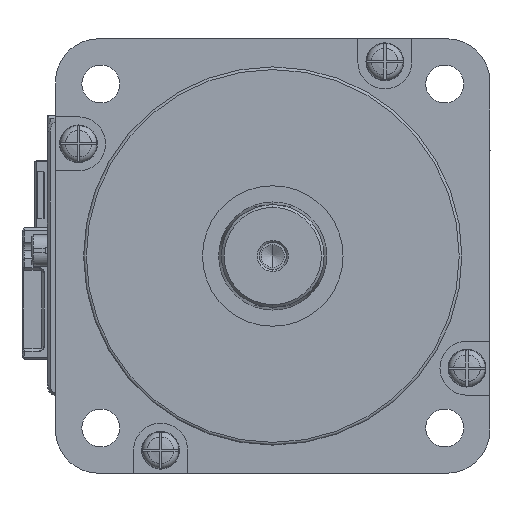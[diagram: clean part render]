
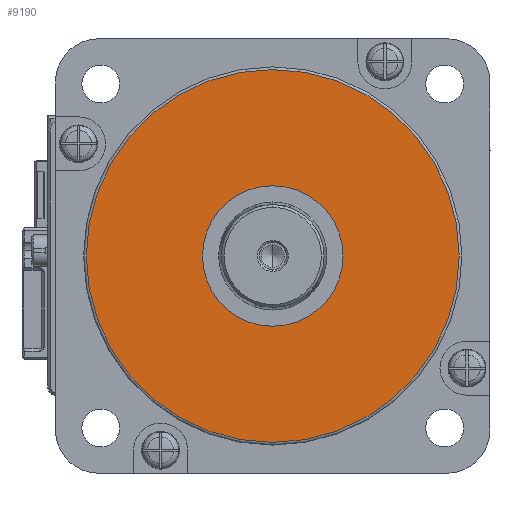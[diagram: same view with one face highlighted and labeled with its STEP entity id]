
A CAD part, left-side view. The second image highlights one B-rep face of the part: STEP entity #9190.
In plain terms, the highlighted planar face has unit normal (-1, 0, 0) as drawn and (0, 0, -1) by its records, which use the part's own axes.
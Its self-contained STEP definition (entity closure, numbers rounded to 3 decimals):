
#1137 = DIRECTION ( 'NONE',  ( 0., 0., 1. ) ) ;
#1428 = DIRECTION ( 'NONE',  ( 1., 0., 0. ) ) ;
#2970 = VERTEX_POINT ( 'NONE', #43387 ) ;
#4233 = ORIENTED_EDGE ( 'NONE', *, *, #35857, .T. ) ;
#5367 = CIRCLE ( 'NONE', #21271, 13. ) ;
#9190 = ADVANCED_FACE ( 'NONE', ( #56147, #10742 ), #51174, .F. ) ;
#9832 = CARTESIAN_POINT ( 'NONE',  ( 0., 0., 0. ) ) ;
#10742 = FACE_BOUND ( 'NONE', #25721, .T. ) ;
#13806 = DIRECTION ( 'NONE',  ( 0., 0., -1. ) ) ;
#19114 = DIRECTION ( 'NONE',  ( 1., 0., 0. ) ) ;
#20295 = AXIS2_PLACEMENT_3D ( 'NONE', #30947, #1137, #36572 ) ;
#21271 = AXIS2_PLACEMENT_3D ( 'NONE', #61401, #26920, #1428 ) ;
#24078 = CIRCLE ( 'NONE', #43151, 34.499 ) ;
#25721 = EDGE_LOOP ( 'NONE', ( #4233 ) ) ;
#26920 = DIRECTION ( 'NONE',  ( 0., 0., 1. ) ) ;
#30947 = CARTESIAN_POINT ( 'NONE',  ( 0., 0., 0. ) ) ;
#35857 = EDGE_CURVE ( 'NONE', #2970, #2970, #5367, .T. ) ;
#36572 = DIRECTION ( 'NONE',  ( 1., 0., 0. ) ) ;
#36879 = EDGE_LOOP ( 'NONE', ( #46172 ) ) ;
#37299 = CARTESIAN_POINT ( 'NONE',  ( 34.499, 0., 0. ) ) ;
#41929 = VERTEX_POINT ( 'NONE', #37299 ) ;
#43151 = AXIS2_PLACEMENT_3D ( 'NONE', #9832, #13806, #19114 ) ;
#43387 = CARTESIAN_POINT ( 'NONE',  ( 13., 0., 0. ) ) ;
#44281 = EDGE_CURVE ( 'NONE', #41929, #41929, #24078, .T. ) ;
#46172 = ORIENTED_EDGE ( 'NONE', *, *, #44281, .T. ) ;
#51174 = PLANE ( 'NONE',  #20295 ) ;
#56147 = FACE_OUTER_BOUND ( 'NONE', #36879, .T. ) ;
#61401 = CARTESIAN_POINT ( 'NONE',  ( 0., 0., 0. ) ) ;
